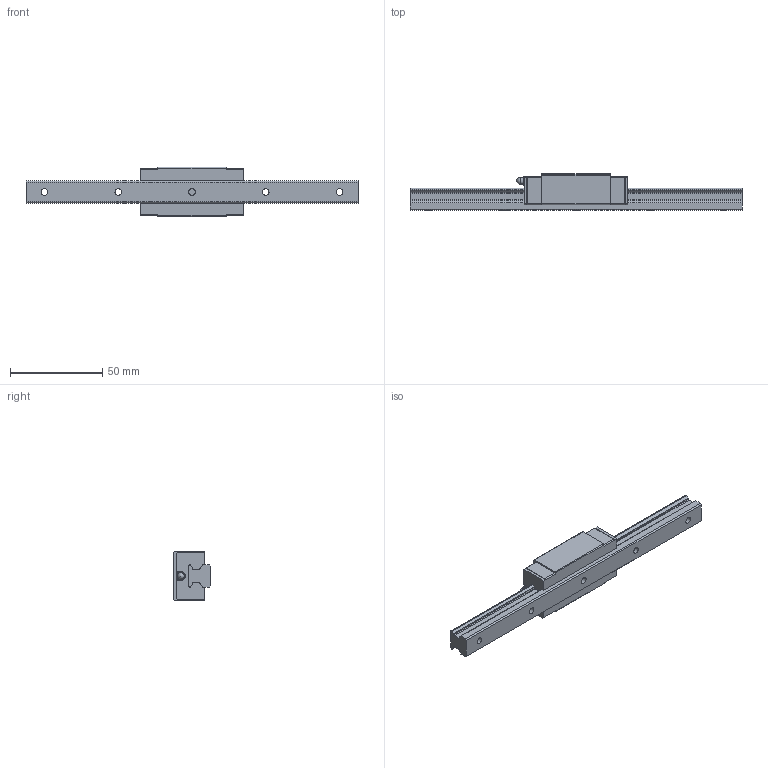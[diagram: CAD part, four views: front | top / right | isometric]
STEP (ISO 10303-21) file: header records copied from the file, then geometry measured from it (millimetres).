
FILE_DESCRIPTION(/* description */ ('STEP AP203'),/* implementation_level */ '2;1');
FILE_NAME(/* name */ 'HRG12LRM1UU-180LHM_G10_0_PB107_61-9_0_0_01',/* time_stamp */ '2024-05-23T11:23:25+02:00',/* author */ ('License CC BY-ND 4.0'),/* organization */ ('CADENAS'),/* preprocessor_version */ 'ST-DEVELOPER v19.3',/* originating_system */ 'PARTsolutions',/* authorisation */ ' ');
FILE_SCHEMA (('CONFIG_CONTROL_DESIGN'));
Length unit declared in the file: millimetre
Products named in the file (4): HRG12LRM1UU-180LHM_G10_0_PB107_61-9_0_0_01; HRG12LRM118010 Rail; HRG12LRMUUPB107 1Slider; HSR-YR-PB107_grease_nipple_joint
Assembly tree (3 placements, depth 2):
  HRG12LRM1UU-180LHM_G10_0_PB107_61-9_0_0_01
    HRG12LRM118010 Rail
    HRG12LRMUUPB107 1Slider
    HSR-YR-PB107_grease_nipple_joint
Bounding box: 180 x 20 x 27 mm (x, y, z)
Volume: 40100 mm3; surface area: 17468.6 mm2
Topology: 3 solids, 3 shells, 159 faces, 431 edges, 286 vertices
Faces by surface type: plane 96, cylinder 54, cone 8, sphere 1
Full cylindrical faces by diameter (mm): 3 x3, 3.242 x4, 3.5 x6, 4.5 x1, 6 x5
Entity records: 4912 total; most frequent: CARTESIAN_POINT 836, DIRECTION 831, ORIENTED_EDGE 786, EDGE_CURVE 393, LINE 281, VECTOR 281, VERTEX_POINT 280, AXIS2_PLACEMENT_3D 275
